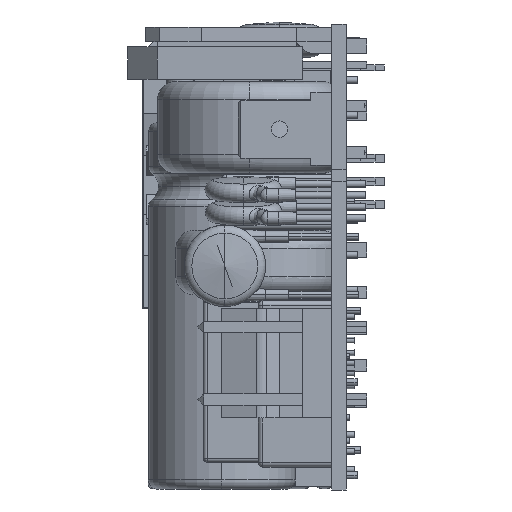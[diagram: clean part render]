
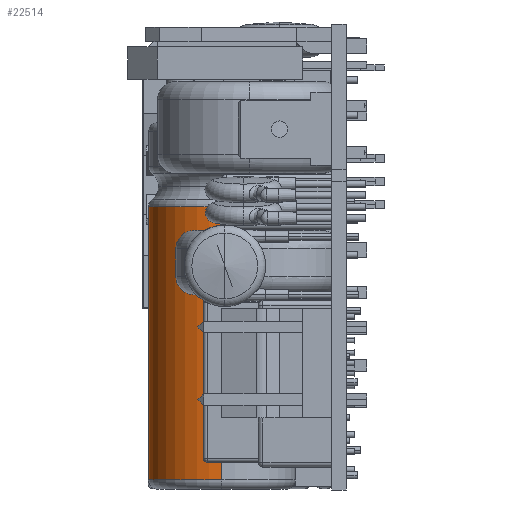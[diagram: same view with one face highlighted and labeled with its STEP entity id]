
A CAD part, left-side view. The second image highlights one B-rep face of the part: STEP entity #22514.
In plain terms, the highlighted cylindrical face has radius 8 mm (diameter 16 mm), a partial arc.
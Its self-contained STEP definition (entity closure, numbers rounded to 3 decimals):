
#7232 = DIRECTION ( 'NONE',  ( 0., -1., 0. ) ) ;
#7233 = VECTOR ( 'NONE', #7232, 1000. ) ;
#7234 = CARTESIAN_POINT ( 'NONE',  ( 0., 0., -8. ) ) ;
#7235 = LINE ( 'NONE', #7234, #7233 ) ;
#7237 = CARTESIAN_POINT ( 'NONE',  ( 0., 9.188, -8. ) ) ;
#7243 = CARTESIAN_POINT ( 'NONE',  ( 0., 9.188, 8. ) ) ;
#7244 = DIRECTION ( 'NONE',  ( 0., -1., 0. ) ) ;
#7245 = VECTOR ( 'NONE', #7244, 1000. ) ;
#7246 = CARTESIAN_POINT ( 'NONE',  ( 0., 0., 8. ) ) ;
#7247 = LINE ( 'NONE', #7246, #7245 ) ;
#7442 = DIRECTION ( 'NONE',  ( 0., 0., -1. ) ) ;
#7443 = DIRECTION ( 'NONE',  ( 0., -1., 0. ) ) ;
#7444 = CARTESIAN_POINT ( 'NONE',  ( 0., 9.188, 0. ) ) ;
#7445 = AXIS2_PLACEMENT_3D ( 'NONE', #7444, #7443, #7442 ) ;
#7446 = CIRCLE ( 'NONE', #7445, 8. ) ;
#7539 = CARTESIAN_POINT ( 'NONE',  ( 0., 39., -8. ) ) ;
#7545 = CARTESIAN_POINT ( 'NONE',  ( 0., 39., 8. ) ) ;
#7651 = CIRCLE ( 'NONE', #7698, 8. ) ;
#7695 = DIRECTION ( 'NONE',  ( 0., 0., -1. ) ) ;
#7696 = DIRECTION ( 'NONE',  ( 0., -1., 0. ) ) ;
#7697 = CARTESIAN_POINT ( 'NONE',  ( 0., 39., 0. ) ) ;
#7698 = AXIS2_PLACEMENT_3D ( 'NONE', #7697, #7696, #7695 ) ;
#7733 = CYLINDRICAL_SURFACE ( 'NONE', #7734, 8. ) ;
#7734 = AXIS2_PLACEMENT_3D ( 'NONE', #7783, #7782, #7781 ) ;
#7753 = FACE_OUTER_BOUND ( 'NONE', #22515, .T. ) ;
#7781 = DIRECTION ( 'NONE',  ( 0., 0., -1. ) ) ;
#7782 = DIRECTION ( 'NONE',  ( 0., -1., 0. ) ) ;
#7783 = CARTESIAN_POINT ( 'NONE',  ( 0., 0., 0. ) ) ;
#22350 = EDGE_CURVE ( 'NONE', #22442, #22351, #7247, .T. ) ;
#22351 = VERTEX_POINT ( 'NONE', #7243 ) ;
#22354 = VERTEX_POINT ( 'NONE', #7237 ) ;
#22356 = EDGE_CURVE ( 'NONE', #22445, #22354, #7235, .T. ) ;
#22410 = EDGE_CURVE ( 'NONE', #22351, #22354, #7446, .T. ) ;
#22442 = VERTEX_POINT ( 'NONE', #7545 ) ;
#22445 = VERTEX_POINT ( 'NONE', #7539 ) ;
#22479 = ORIENTED_EDGE ( 'NONE', *, *, #22480, .T. ) ;
#22480 = EDGE_CURVE ( 'NONE', #22442, #22445, #7651, .T. ) ;
#22481 = ORIENTED_EDGE ( 'NONE', *, *, #22356, .T. ) ;
#22482 = ORIENTED_EDGE ( 'NONE', *, *, #22410, .F. ) ;
#22514 = ADVANCED_FACE ( 'NONE', ( #7753 ), #7733, .T. ) ;
#22515 = EDGE_LOOP ( 'NONE', ( #22516, #22479, #22481, #22482 ) ) ;
#22516 = ORIENTED_EDGE ( 'NONE', *, *, #22350, .F. ) ;
